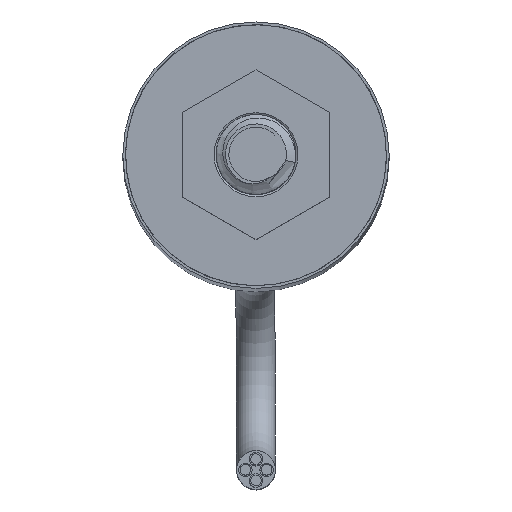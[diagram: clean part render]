
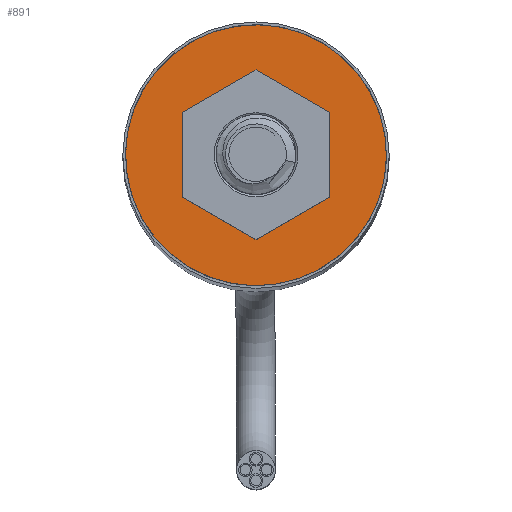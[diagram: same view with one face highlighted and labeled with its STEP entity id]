
A CAD part, top view. The second image highlights one B-rep face of the part: STEP entity #891.
In plain terms, the highlighted planar face has unit normal (0, 0, 1).
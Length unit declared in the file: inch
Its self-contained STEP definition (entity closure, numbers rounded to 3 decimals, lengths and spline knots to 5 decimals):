
#65=FACE_BOUND('',#181,.T.);
#83=PLANE('',#1126);
#118=FACE_OUTER_BOUND('',#180,.T.);
#180=EDGE_LOOP('',(#604));
#181=EDGE_LOOP('',(#605));
#352=CIRCLE('',#1121,0.11);
#355=CIRCLE('',#1125,0.245);
#402=VERTEX_POINT('',#1524);
#405=VERTEX_POINT('',#1532);
#478=EDGE_CURVE('',#402,#402,#352,.T.);
#483=EDGE_CURVE('',#405,#405,#355,.T.);
#604=ORIENTED_EDGE('',*,*,#483,.T.);
#605=ORIENTED_EDGE('',*,*,#478,.T.);
#891=ADVANCED_FACE('',(#118,#65),#83,.T.);
#1121=AXIS2_PLACEMENT_3D('',#1525,#1250,#1251);
#1125=AXIS2_PLACEMENT_3D('',#1534,#1260,#1261);
#1126=AXIS2_PLACEMENT_3D('',#1535,#1262,#1263);
#1250=DIRECTION('center_axis',(0.,0.,
-1.));
#1251=DIRECTION('ref_axis',(0.999,-0.039,0.));
#1260=DIRECTION('center_axis',(0.,0.,
1.));
#1261=DIRECTION('ref_axis',(0.999,-0.039,0.));
#1262=DIRECTION('center_axis',(0.,0.,
1.));
#1263=DIRECTION('ref_axis',(0.999,-0.039,0.));
#1524=CARTESIAN_POINT('',(-0.10992,0.00426,0.));
#1525=CARTESIAN_POINT('Origin',(0.,0.,
0.));
#1532=CARTESIAN_POINT('',(-0.24482,0.00949,0.));
#1534=CARTESIAN_POINT('Origin',(0.,0.,
0.));
#1535=CARTESIAN_POINT('Origin',(0.,0.,
0.));
